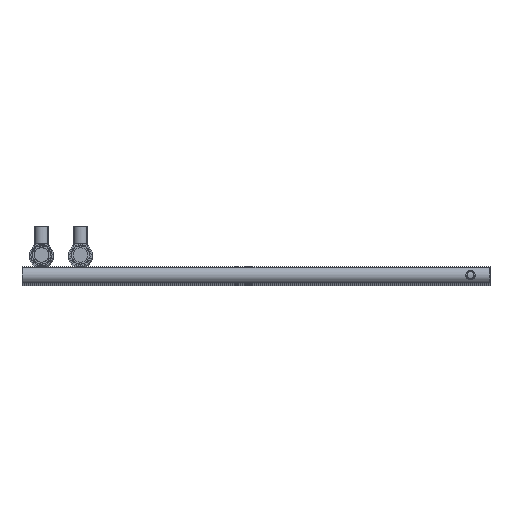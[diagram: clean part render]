
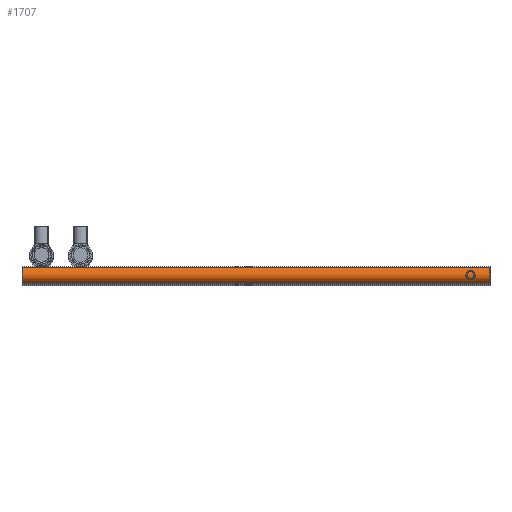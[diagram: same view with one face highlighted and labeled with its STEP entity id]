
A CAD part, top view. The second image highlights one B-rep face of the part: STEP entity #1707.
In plain terms, the highlighted cylindrical face has radius 11 mm (diameter 22 mm), a full revolution.
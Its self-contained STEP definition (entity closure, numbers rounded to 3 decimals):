
#394=CIRCLE('',#1852,11.);
#395=CIRCLE('',#1854,11.);
#538=FACE_BOUND('',#796,.T.);
#601=FACE_OUTER_BOUND('',#795,.T.);
#795=EDGE_LOOP('',(#1509));
#796=EDGE_LOOP('',(#1510));
#1063=VERTEX_POINT('',#5117);
#1064=VERTEX_POINT('',#5120);
#1220=EDGE_CURVE('',#1063,#1063,#394,.T.);
#1221=EDGE_CURVE('',#1064,#1064,#395,.T.);
#1509=ORIENTED_EDGE('',*,*,#1221,.F.);
#1510=ORIENTED_EDGE('',*,*,#1220,.T.);
#1650=CYLINDRICAL_SURFACE('',#1855,11.);
#1707=ADVANCED_FACE('',(#601,#538),#1650,.T.);
#1852=AXIS2_PLACEMENT_3D('',#5118,#2102,#2103);
#1854=AXIS2_PLACEMENT_3D('',#5121,#2106,#2107);
#1855=AXIS2_PLACEMENT_3D('',#5122,#2108,#2109);
#2102=DIRECTION('center_axis',(0.,0.,-1.));
#2103=DIRECTION('ref_axis',(-1.,0.,0.));
#2106=DIRECTION('center_axis',(0.,0.,-1.));
#2107=DIRECTION('ref_axis',(-1.,0.,0.));
#2108=DIRECTION('center_axis',(0.,0.,-1.));
#2109=DIRECTION('ref_axis',(-1.,0.,0.));
#5117=CARTESIAN_POINT('',(11.,-11.,0.));
#5118=CARTESIAN_POINT('Origin',(0.,-11.,0.));
#5120=CARTESIAN_POINT('',(11.,-11.,-600.));
#5121=CARTESIAN_POINT('Origin',(0.,-11.,-600.));
#5122=CARTESIAN_POINT('Origin',(0.,-11.,0.));
